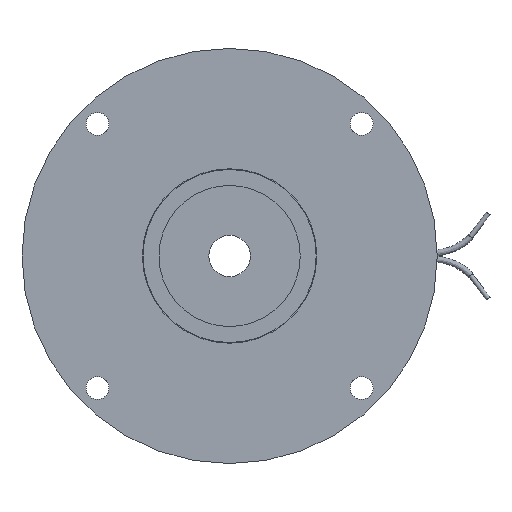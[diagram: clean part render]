
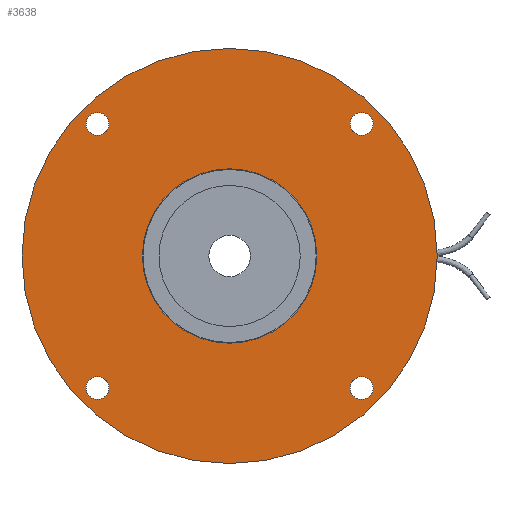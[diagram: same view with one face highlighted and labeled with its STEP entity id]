
A CAD part, left-side view. The second image highlights one B-rep face of the part: STEP entity #3638.
In plain terms, the highlighted planar face has unit normal (-1, 0, 0).
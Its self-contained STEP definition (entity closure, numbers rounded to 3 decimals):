
#95=FACE_BOUND('',#1147,.T.);
#96=FACE_BOUND('',#1148,.T.);
#97=FACE_BOUND('',#1149,.T.);
#98=FACE_BOUND('',#1150,.T.);
#99=FACE_BOUND('',#1151,.T.);
#867=FACE_OUTER_BOUND('',#1146,.T.);
#1146=EDGE_LOOP('',(#3145));
#1147=EDGE_LOOP('',(#3146));
#1148=EDGE_LOOP('',(#3147));
#1149=EDGE_LOOP('',(#3148));
#1150=EDGE_LOOP('',(#3149));
#1151=EDGE_LOOP('',(#3150));
#1416=CIRCLE('',#4118,2.75);
#1418=CIRCLE('',#4121,2.75);
#1420=CIRCLE('',#4124,2.75);
#1422=CIRCLE('',#4127,2.75);
#1424=CIRCLE('',#4130,50.);
#1432=CIRCLE('',#4147,21.);
#1721=VERTEX_POINT('',#6351);
#1723=VERTEX_POINT('',#6357);
#1725=VERTEX_POINT('',#6363);
#1727=VERTEX_POINT('',#6369);
#1729=VERTEX_POINT('',#6375);
#1741=VERTEX_POINT('',#6448);
#2184=EDGE_CURVE('',#1721,#1721,#1416,.T.);
#2187=EDGE_CURVE('',#1723,#1723,#1418,.T.);
#2190=EDGE_CURVE('',#1725,#1725,#1420,.T.);
#2193=EDGE_CURVE('',#1727,#1727,#1422,.T.);
#2196=EDGE_CURVE('',#1729,#1729,#1424,.T.);
#2213=EDGE_CURVE('',#1741,#1741,#1432,.T.);
#3145=ORIENTED_EDGE('',*,*,#2196,.F.);
#3146=ORIENTED_EDGE('',*,*,#2184,.T.);
#3147=ORIENTED_EDGE('',*,*,#2187,.T.);
#3148=ORIENTED_EDGE('',*,*,#2190,.T.);
#3149=ORIENTED_EDGE('',*,*,#2193,.T.);
#3150=ORIENTED_EDGE('',*,*,#2213,.T.);
#3300=PLANE('',#4148);
#3638=ADVANCED_FACE('',(#867,#95,#96,#97,#98,#99),#3300,.T.);
#4118=AXIS2_PLACEMENT_3D('',#6353,#5241,#5242);
#4121=AXIS2_PLACEMENT_3D('',#6359,#5248,#5249);
#4124=AXIS2_PLACEMENT_3D('',#6365,#5255,#5256);
#4127=AXIS2_PLACEMENT_3D('',#6371,#5262,#5263);
#4130=AXIS2_PLACEMENT_3D('',#6377,#5269,#5270);
#4147=AXIS2_PLACEMENT_3D('',#6450,#5310,#5311);
#4148=AXIS2_PLACEMENT_3D('',#6451,#5312,#5313);
#5241=DIRECTION('center_axis',(1.,0.,0.));
#5242=DIRECTION('ref_axis',(0.,0.,-1.));
#5248=DIRECTION('center_axis',(1.,0.,0.));
#5249=DIRECTION('ref_axis',(0.,0.,-1.));
#5255=DIRECTION('center_axis',(1.,0.,0.));
#5256=DIRECTION('ref_axis',(0.,0.,-1.));
#5262=DIRECTION('center_axis',(1.,0.,0.));
#5263=DIRECTION('ref_axis',(0.,0.,-1.));
#5269=DIRECTION('center_axis',(1.,0.,0.));
#5270=DIRECTION('ref_axis',(0.,0.,-1.));
#5310=DIRECTION('center_axis',(1.,0.,0.));
#5311=DIRECTION('ref_axis',(0.,0.,-1.));
#5312=DIRECTION('center_axis',(-1.,0.,0.));
#5313=DIRECTION('ref_axis',(0.,0.,1.));
#6351=CARTESIAN_POINT('',(-10.,-31.82,-29.07));
#6353=CARTESIAN_POINT('Origin',(-10.,-31.82,-31.82));
#6357=CARTESIAN_POINT('',(-10.,31.82,34.57));
#6359=CARTESIAN_POINT('Origin',(-10.,31.82,31.82));
#6363=CARTESIAN_POINT('',(-10.,-31.82,34.57));
#6365=CARTESIAN_POINT('Origin',(-10.,-31.82,31.82));
#6369=CARTESIAN_POINT('',(-10.,31.82,-29.07));
#6371=CARTESIAN_POINT('Origin',(-10.,31.82,-31.82));
#6375=CARTESIAN_POINT('',(-10.,-50.,0.));
#6377=CARTESIAN_POINT('Origin',(-10.,0.,0.));
#6448=CARTESIAN_POINT('',(-10.,-21.,0.));
#6450=CARTESIAN_POINT('Origin',(-10.,0.,0.));
#6451=CARTESIAN_POINT('Origin',(-10.,50.,0.));
